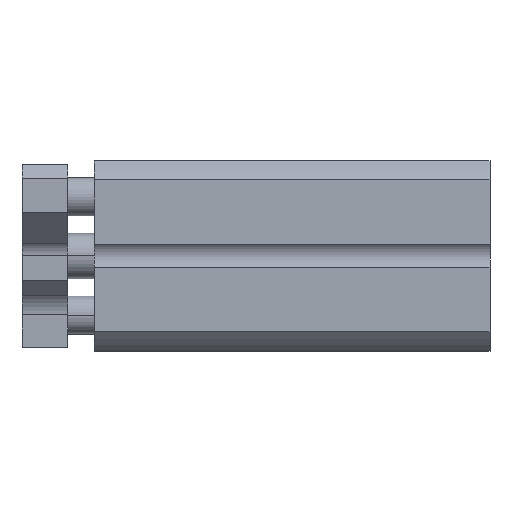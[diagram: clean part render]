
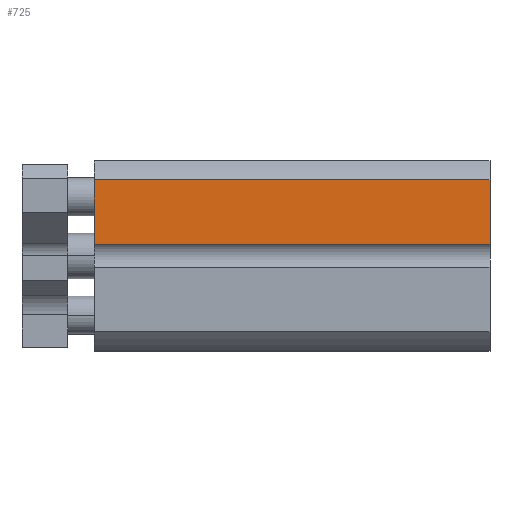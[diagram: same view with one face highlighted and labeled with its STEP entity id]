
A CAD part, top view. The second image highlights one B-rep face of the part: STEP entity #725.
In plain terms, the highlighted planar face has unit normal (0, 0, 1).
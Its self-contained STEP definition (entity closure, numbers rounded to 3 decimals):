
#6 = DIRECTION ( 'NONE',  ( 0., -1., 0. ) ) ;
#45 = FACE_OUTER_BOUND ( 'NONE', #3914, .T. ) ;
#147 = DIRECTION ( 'NONE',  ( 0., -1., 0. ) ) ;
#394 = LINE ( 'NONE', #1962, #548 ) ;
#520 = CARTESIAN_POINT ( 'NONE',  ( 52., 9.987, 12.5 ) ) ;
#538 = EDGE_CURVE ( 'NONE', #3110, #3327, #1467, .T. ) ;
#548 = VECTOR ( 'NONE', #1342, 1000. ) ;
#656 = VECTOR ( 'NONE', #1050, 1000. ) ;
#725 = ADVANCED_FACE ( 'NONE', ( #45 ), #2886, .F. ) ;
#797 = DIRECTION ( 'NONE',  ( 0., 0., -1. ) ) ;
#819 = VECTOR ( 'NONE', #2100, 1000. ) ;
#961 = VECTOR ( 'NONE', #6, 1000. ) ;
#1050 = DIRECTION ( 'NONE',  ( -1., 0., 0. ) ) ;
#1342 = DIRECTION ( 'NONE',  ( 0., -1., 0. ) ) ;
#1378 = VERTEX_POINT ( 'NONE', #1797 ) ;
#1467 = LINE ( 'NONE', #3627, #961 ) ;
#1797 = CARTESIAN_POINT ( 'NONE',  ( 52., 1.5, 12.5 ) ) ;
#1868 = AXIS2_PLACEMENT_3D ( 'NONE', #520, #797, #147 ) ;
#1960 = EDGE_CURVE ( 'NONE', #3769, #3110, #2395, .T. ) ;
#1962 = CARTESIAN_POINT ( 'NONE',  ( 52., 9.987, 12.5 ) ) ;
#2069 = EDGE_CURVE ( 'NONE', #3769, #1378, #394, .T. ) ;
#2100 = DIRECTION ( 'NONE',  ( -1., 0., 0. ) ) ;
#2382 = ORIENTED_EDGE ( 'NONE', *, *, #1960, .T. ) ;
#2395 = LINE ( 'NONE', #3036, #819 ) ;
#2425 = EDGE_CURVE ( 'NONE', #1378, #3327, #2500, .T. ) ;
#2484 = CARTESIAN_POINT ( 'NONE',  ( 52., 1.5, 12.5 ) ) ;
#2500 = LINE ( 'NONE', #2484, #656 ) ;
#2507 = CARTESIAN_POINT ( 'NONE',  ( 0., 1.5, 12.5 ) ) ;
#2552 = ORIENTED_EDGE ( 'NONE', *, *, #538, .T. ) ;
#2596 = CARTESIAN_POINT ( 'NONE',  ( 52., 9.987, 12.5 ) ) ;
#2778 = ORIENTED_EDGE ( 'NONE', *, *, #2425, .F. ) ;
#2886 = PLANE ( 'NONE',  #1868 ) ;
#3036 = CARTESIAN_POINT ( 'NONE',  ( 52., 9.987, 12.5 ) ) ;
#3110 = VERTEX_POINT ( 'NONE', #3263 ) ;
#3263 = CARTESIAN_POINT ( 'NONE',  ( 0., 9.987, 12.5 ) ) ;
#3327 = VERTEX_POINT ( 'NONE', #2507 ) ;
#3454 = ORIENTED_EDGE ( 'NONE', *, *, #2069, .F. ) ;
#3627 = CARTESIAN_POINT ( 'NONE',  ( 0., 9.987, 12.5 ) ) ;
#3769 = VERTEX_POINT ( 'NONE', #2596 ) ;
#3914 = EDGE_LOOP ( 'NONE', ( #2552, #2778, #3454, #2382 ) ) ;
